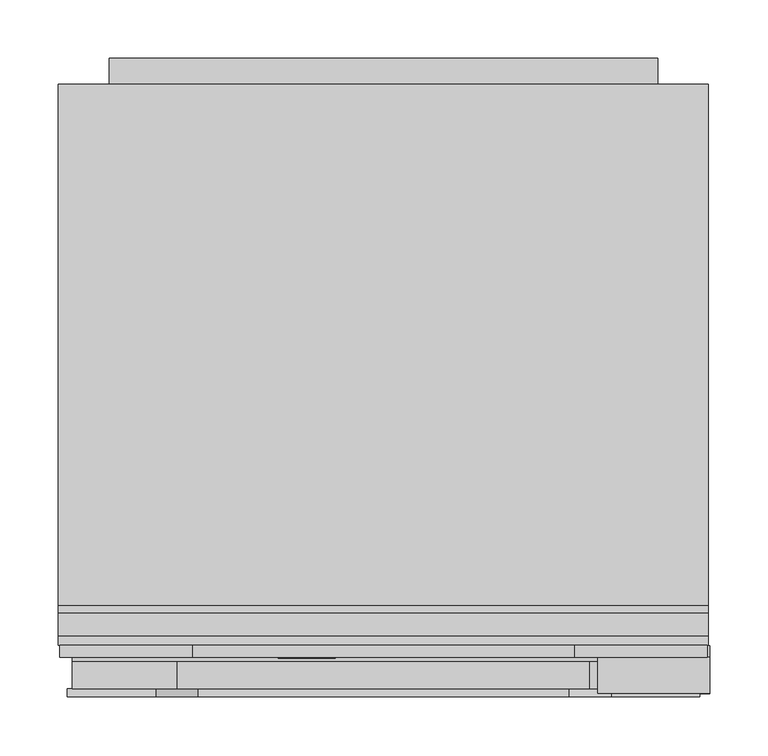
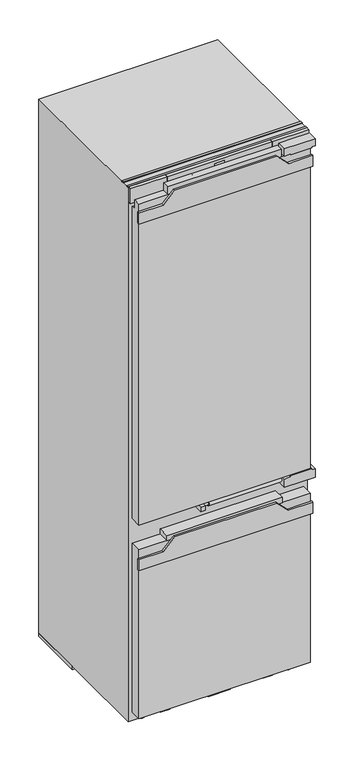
"""IFC4 building model written with IfcOpenShell, lengths in millimetres: proxy geometry, 12444400_EU1_K7731E : 36773105_EU1_12444400_K7731E."""

import ifcopenshell
import ifcopenshell.guid

model = None  # the IFC model being written
_history = None  # IfcOwnerHistory: only IFC2X3 demands one
_inside = {}  # id of a spatial element -> (the spatial element, [elements in it])
_under = {}  # id of a project, library or spatial element -> (it, [spatial elements below it])
_declared = {}  # id of a project -> (the project, [libraries it declares])
_typed = {}  # id of a type object -> (the type object, [elements of that type])
_made_of = {}  # id of a material, layer set ... -> (it, [elements and type objects made of it])


def new_model(schema):
    """Start an empty IFC model of exactly this schema.

    Asked for "IFC4X3", IfcOpenShell would pick the latest addendum, in which some entities
    have other attributes; the version numbers below select the first issue.
    IFC2X3 requires an IfcOwnerHistory on every rooted entity: one is made here for all.
    """
    global model, _history
    if schema == "IFC4X3":
        model = ifcopenshell.file(schema_version=(4, 3, 0, 0))
    else:
        model = ifcopenshell.file(schema=schema)
    _inside.clear()
    _under.clear()
    _declared.clear()
    _typed.clear()
    _made_of.clear()
    _history = None
    if model.schema == "IFC2X3":
        org = make("IfcOrganization", Name="unknown")
        user = make(
            "IfcPersonAndOrganization",
            ThePerson=make("IfcPerson", FamilyName="unknown"),
            TheOrganization=org,
        )
        app = make(
            "IfcApplication",
            ApplicationDeveloper=org,
            Version="unknown",
            ApplicationFullName="unknown",
            ApplicationIdentifier="unknown",
        )
        _history = make(
            "IfcOwnerHistory",
            OwningUser=user,
            OwningApplication=app,
            ChangeAction="ADDED",
            CreationDate=0,
        )
    return model


def make(cls, **values):
    """One entity of the class cls with the attributes given. An attribute that is None is left unset."""
    return model.create_entity(
        cls, **{name: value for name, value in values.items() if value is not None}
    )


def rooted(cls, **values):
    """An entity with a GlobalId (a new one), such as an element, a storey or a relation."""
    return make(cls, GlobalId=ifcopenshell.guid.new(), OwnerHistory=_history, **values)


def si_unit(unit_type, name, prefix=None):
    """IfcSIUnit, for example si_unit("LENGTHUNIT", "METRE", prefix="MILLI")."""
    return make("IfcSIUnit", UnitType=unit_type, Prefix=prefix, Name=name)


def assignment(units):
    """IfcUnitAssignment: the units of a project."""
    return None if units is None else make("IfcUnitAssignment", Units=units)


def point(xyz):
    """IfcCartesianPoint."""
    return None if xyz is None else make("IfcCartesianPoint", Coordinates=xyz)


def direction(xyz):
    """IfcDirection."""
    return None if xyz is None else make("IfcDirection", DirectionRatios=xyz)


def frame(location, z_axis=None, x_axis=None):
    """IfcAxis2Placement3D, a coordinate frame: its origin and axes. An axis left out is left unset."""
    return make(
        "IfcAxis2Placement3D",
        Location=point(location),
        Axis=direction(z_axis),
        RefDirection=direction(x_axis),
    )


def frame_2d(location, x_axis=None):
    """IfcAxis2Placement2D, a coordinate frame in the plane: its origin and x axis."""
    return make(
        "IfcAxis2Placement2D", Location=point(location), RefDirection=direction(x_axis)
    )


def origin():
    """The frame at (0, 0, 0) with its axes left unset."""
    return frame((0.0, 0.0, 0.0))


def origin_with_axes():
    """The frame at (0, 0, 0) with the z axis (0, 0, 1) and the x axis (1, 0, 0) written out."""
    return frame((0.0, 0.0, 0.0), z_axis=(0.0, 0.0, 1.0), x_axis=(1.0, 0.0, 0.0))


def place(relative_to, where):
    """IfcLocalPlacement: puts the frame where relative to a parent placement (None: the world)."""
    return make(
        "IfcLocalPlacement", PlacementRelTo=relative_to, RelativePlacement=where
    )


def context(
    kind, dimensions, precision=None, world=None, true_north=None, identifier=None
):
    """IfcGeometricRepresentationContext, for example the 3D "Model" context."""
    return make(
        "IfcGeometricRepresentationContext",
        ContextIdentifier=identifier,
        ContextType=kind,
        CoordinateSpaceDimension=dimensions,
        Precision=precision,
        WorldCoordinateSystem=world,
        TrueNorth=true_north,
    )


def project(units=None, contexts=None):
    """IfcProject with its units and contexts."""
    return rooted(
        "IfcProject",
        Name="project",
        RepresentationContexts=contexts,
        UnitsInContext=assignment(units),
    )


def spatial(cls, under=None, at=None, **own):
    """A site, building, storey or space (cls), placed at a placement, below another one or the project."""
    s = rooted(cls, ObjectPlacement=at, **own)
    if under is not None:
        _under.setdefault(under.id(), (under, []))[1].append(s)
    return s


def polyline(points):
    """IfcPolyline through the points."""
    return make("IfcPolyline", Points=[point(p) for p in points])


def circle_curve(where, radius):
    """IfcCircle in the frame where."""
    return make("IfcCircle", Position=where, Radius=radius)


def ellipse_curve(where, semi_axis1, semi_axis2):
    """IfcEllipse in the frame where."""
    return make(
        "IfcEllipse", Position=where, SemiAxis1=semi_axis1, SemiAxis2=semi_axis2
    )


def trimmed(basis, trim1, trim2, sense, master):
    """IfcTrimmedCurve: the piece of a basis curve between two trims."""
    return make(
        "IfcTrimmedCurve",
        BasisCurve=basis,
        Trim1=trim1,
        Trim2=trim2,
        SenseAgreement=sense,
        MasterRepresentation=master,
    )


def segment(curve, same_sense, transition):
    """IfcCompositeCurveSegment."""
    return make(
        "IfcCompositeCurveSegment",
        Transition=transition,
        SameSense=same_sense,
        ParentCurve=curve,
    )


def composite_curve(segments, self_intersect=None):
    """IfcCompositeCurve: segments joined end to end."""
    return make("IfcCompositeCurve", Segments=segments, SelfIntersect=self_intersect)


def outline(outer, holes=None, kind="AREA"):
    """IfcArbitraryClosedProfileDef: a profile drawn as a closed curve; with holes, ...WithVoids."""
    if holes is None:
        return make("IfcArbitraryClosedProfileDef", ProfileType=kind, OuterCurve=outer)
    return make(
        "IfcArbitraryProfileDefWithVoids",
        ProfileType=kind,
        OuterCurve=outer,
        InnerCurves=holes,
    )


def extrude(swept, where, along, depth):
    """IfcExtrudedAreaSolid: the profile swept, set in the frame where, extruded along a direction by depth."""
    return make(
        "IfcExtrudedAreaSolid",
        SweptArea=swept,
        Position=where,
        ExtrudedDirection=direction(along),
        Depth=depth,
    )


def faces_of(points, faces, orient=None, outer=None):
    """IfcFace entities. A face is a list of loops; a loop is a list of indices into points, from 0.

    orient and outer hold one flag for each loop. By default every Orientation is true, the
    first loop of a face is its IfcFaceOuterBound and the others are IfcFaceBound.
    """
    made = []
    for i, loops in enumerate(faces):
        bounds = []
        for j, loop in enumerate(loops):
            is_outer = j == 0 if outer is None else outer[i][j]
            bounds.append(
                make(
                    "IfcFaceOuterBound" if is_outer else "IfcFaceBound",
                    Bound=make("IfcPolyLoop", Polygon=[points[k] for k in loop]),
                    Orientation=True if orient is None else orient[i][j],
                )
            )
        made.append(make("IfcFace", Bounds=bounds))
    return made


def faceted_brep(points, faces, orient=None, outer=None, voids=None):
    """IfcFacetedBrep: a solid bounded by flat faces; with voids (closed shells), ...WithVoids."""
    shared = [point(p) for p in points]
    hull = make("IfcClosedShell", CfsFaces=faces_of(shared, faces, orient, outer))
    if voids is None:
        return make("IfcFacetedBrep", Outer=hull)
    return make(
        "IfcFacetedBrepWithVoids",
        Outer=hull,
        Voids=[
            make(cls, CfsFaces=faces_of(shared, fs, o, b)) for cls, fs, o, b in voids
        ],
    )


def shape(context_of_items, identifier, shape_type, items):
    """IfcShapeRepresentation: the items that make up one representation, for example the "Body"."""
    return make(
        "IfcShapeRepresentation",
        ContextOfItems=context_of_items,
        RepresentationIdentifier=identifier,
        RepresentationType=shape_type,
        Items=items,
    )


def source(mapping_origin, context_of_items, identifier, shape_type, items):
    """IfcRepresentationMap: a shape defined once, which mapped items show again and again."""
    return make(
        "IfcRepresentationMap",
        MappingOrigin=mapping_origin,
        MappedRepresentation=shape(context_of_items, identifier, shape_type, items),
    )


def transform(
    local_origin,
    x_axis=None,
    y_axis=None,
    z_axis=None,
    scale=None,
    scale2=None,
    scale3=None,
    uniform=True,
):
    """IfcCartesianTransformationOperator3D, or its non-uniform kind. x_axis, y_axis, z_axis: its Axis1, 2, 3."""
    if uniform:
        return make(
            "IfcCartesianTransformationOperator3D",
            Axis1=direction(x_axis),
            Axis2=direction(y_axis),
            LocalOrigin=point(local_origin),
            Scale=scale,
            Axis3=direction(z_axis),
        )
    return make(
        "IfcCartesianTransformationOperator3DnonUniform",
        Axis1=direction(x_axis),
        Axis2=direction(y_axis),
        LocalOrigin=point(local_origin),
        Scale=scale,
        Axis3=direction(z_axis),
        Scale2=scale2,
        Scale3=scale3,
    )


def mapped(mapping_source, mapping_target):
    """IfcMappedItem: shows the shape of a source again, moved by a transform."""
    return make(
        "IfcMappedItem", MappingSource=mapping_source, MappingTarget=mapping_target
    )


def made_of(thing, what):
    """Note that an element or type object is made of a material, layer set ...; save() writes the relation."""
    if what is not None:
        _made_of.setdefault(what.id(), (what, []))[1].append(thing)
    return thing


def element(
    cls,
    number,
    at=None,
    inside=None,
    cuts=None,
    type_object=None,
    material=None,
    context=None,
    identifier="Body",
    shape_type=None,
    held_by="IfcProductDefinitionShape",
    body=None,
    shapes=None,
    **own,
):
    """One element of the class cls, such as IfcWall. Its Tag is "e" and its number.

    at: its placement. inside: the storey or other place that contains it. cuts: it is an
    opening in that element (IfcRelVoidsElement). A single representation is given by context,
    identifier, shape_type and body (its items); several are given by shapes. held_by: the class
    of the entity that holds the representations. save() writes the other relations.
    """
    e = rooted(cls, Tag="e%d" % number, ObjectPlacement=at, **own)
    if body is not None:
        shapes = [shape(context, identifier, shape_type, body)]
    if shapes is not None:
        e.Representation = make(held_by, Representations=shapes)
    if inside is not None:
        _inside.setdefault(inside.id(), (inside, []))[1].append(e)
    if cuts is not None:
        rooted(
            "IfcRelVoidsElement", RelatingBuildingElement=cuts, RelatedOpeningElement=e
        )
    if type_object is not None:
        _typed.setdefault(type_object.id(), (type_object, []))[1].append(e)
    return made_of(e, material)


def aggregate(whole, parts):
    """IfcRelAggregates: a whole, such as a stair, and the parts it consists of."""
    return rooted("IfcRelAggregates", RelatingObject=whole, RelatedObjects=parts)


def save(model, path):
    """Write the relations noted so far, then the file.

    IfcRelAggregates (storeys below a building ...), IfcRelContainedInSpatialStructure (elements
    in a storey), IfcRelDefinesByType, IfcRelAssociatesMaterial and IfcRelDeclares: one each for
    every whole, place, type object, material and project.
    """
    for whole, parts in _under.values():
        aggregate(whole, parts)
    for where, things in _inside.values():
        rooted(
            "IfcRelContainedInSpatialStructure",
            RelatedElements=things,
            RelatingStructure=where,
        )
    for kind, things in _typed.values():
        rooted("IfcRelDefinesByType", RelatedObjects=things, RelatingType=kind)
    for what, things in _made_of.values():
        rooted("IfcRelAssociatesMaterial", RelatedObjects=things, RelatingMaterial=what)
    for by, libraries in _declared.values():
        rooted("IfcRelDeclares", RelatingContext=by, RelatedDefinitions=libraries)
    model.write(path)


def plane_surface(at):
    """IfcPlane: the flat surface through the origin of the frame at, square to its z axis."""
    return make("IfcPlane", Position=at)


def cylinder_surface(at, radius):
    """IfcCylindricalSurface: all points at the distance radius from the z axis of the frame at."""
    return make("IfcCylindricalSurface", Position=at, Radius=radius)


def revolved_surface(curve, axis_point, axis_direction):
    """IfcSurfaceOfRevolution: the curve turned about the line through axis_point along axis_direction."""
    return make(
        "IfcSurfaceOfRevolution",
        SweptCurve=make("IfcArbitraryOpenProfileDef", ProfileType="CURVE", Curve=curve),
        AxisPosition=make("IfcAxis1Placement", Location=point(axis_point), Axis=direction(axis_direction)),
    )


def extruded_surface(curve, direction_of_extrusion, depth):
    """IfcSurfaceOfLinearExtrusion: the curve pushed along a direction by depth."""
    return make(
        "IfcSurfaceOfLinearExtrusion",
        SweptCurve=make("IfcArbitraryOpenProfileDef", ProfileType="CURVE", Curve=curve),
        ExtrudedDirection=direction(direction_of_extrusion),
        Depth=depth,
    )


def advanced_brep(points, edges, surfaces, faces):
    """IfcAdvancedBrep: a solid bounded by faces that lie on surfaces and meet in shared edges.

    An edge is (start, end): straight between two places in points (the first is 0);
    or (start, end, curve); or (start, end, curve, False) where it runs against its curve.
    A face is (place in surfaces, loops), or (place, loops, False) where it looks against
    its surface's normal. A loop lists edges by number (the first is 1), with a minus sign
    where the edge is run from its end to its start. The first loop is the outer one.
    """
    corners = [point(p) for p in points]
    vertices = [make("IfcVertexPoint", VertexGeometry=c) for c in corners]
    made = []
    for start, end, *more in edges:
        made.append(
            make(
                "IfcEdgeCurve",
                EdgeStart=vertices[start],
                EdgeEnd=vertices[end],
                EdgeGeometry=more[0] if more else make("IfcPolyline", Points=[corners[start], corners[end]]),
                SameSense=more[1] if len(more) > 1 else True,
            )
        )
    hull = []
    for where, loops, *sense in faces:
        bounds = []
        for j, loop in enumerate(loops):
            ring = [make("IfcOrientedEdge", EdgeElement=made[abs(k) - 1], Orientation=k > 0) for k in loop]
            bounds.append(
                make(
                    "IfcFaceOuterBound" if j == 0 else "IfcFaceBound",
                    Bound=make("IfcEdgeLoop", EdgeList=ring),
                    Orientation=True,
                )
            )
        hull.append(make("IfcAdvancedFace", Bounds=bounds, FaceSurface=surfaces[where], SameSense=sense[0] if sense else True))
    return make("IfcAdvancedBrep", Outer=make("IfcClosedShell", CfsFaces=hull))


def specialty_equipment_4f9cea4c(model_context):
    return source(origin(), model_context, "Body", "SolidModel", [
        advanced_brep(
        [(-46.64, 33.0, 1742.896), (-46.64, 33.0, 1743.704), (-41.288, 33.0, 1743.704), (-50.6, 33.0, 1743.704), (-48.4, 33.0, 1741.0), (-41.424, 33.0, 1742.896), (-43.84, 33.0, 1742.896), (-45.744, 33.0, 1742.0), (-46.64, 33.0, 1744.728), (-46.64, 33.0, 1745.6), (-45.272, 33.0, 1745.6), (-45.272, 33.0, 1744.728), (-46.64, 34.0, 1742.896), (-45.744, 34.0, 1742.0), (-43.84, 34.0, 1742.896), (-41.424, 34.0, 1742.896), (-48.4, 34.0, 1741.0), (-50.6, 34.0, 1743.704), (-41.288, 34.0, 1743.704), (-46.64, 34.0, 1743.704), (-46.64, 34.0, 1744.728), (-45.272, 34.0, 1744.728), (-45.272, 34.0, 1745.6), (-46.64, 34.0, 1745.6)],
        [
            (0, 1),
            (1, 2),
            (2, 3, ellipse_curve(frame((-45.944, 33.0, 1743.704), z_axis=(0.0, -1.0, 0.0), x_axis=(-1.0, 0.0, 0.0)), 4.656, 3.848)),
            (3, 4, circle_curve(frame((-47.5039564, 33.0, 1743.976), z_axis=(0.0, -1.0, 0.0), x_axis=(0.0, 0.0, -1.0)), 3.1079688)),
            (4, 5, circle_curve(frame((-46.0372064, 33.0, 1746.088), z_axis=(0.0, -1.0, 0.0), x_axis=(0.0, 0.0, -1.0)), 5.6098607)),
            (5, 6),
            (6, 7, circle_curve(frame((-45.3529412, 33.0, 1743.64), z_axis=(0.0, 1.0, 0.0), x_axis=(0.0, 0.0, -1.0)), 1.6859795)),
            (7, 0, circle_curve(frame((-45.744, 33.0, 1742.896), z_axis=(0.0, 1.0, 0.0), x_axis=(0.0, 0.0, -1.0)), 0.896)),
            (8, 9),
            (9, 10, circle_curve(frame((-45.956, 33.0, 1745.6), z_axis=(0.0, 1.0, 0.0), x_axis=(0.0, 0.0, -1.0)), 0.684)),
            (10, 11),
            (11, 8),
            (12, 13, circle_curve(frame((-45.744, 34.0, 1742.896), z_axis=(0.0, -1.0, 0.0), x_axis=(0.0, 0.0, -1.0)), 0.896)),
            (13, 14, circle_curve(frame((-45.3529412, 34.0, 1743.64), z_axis=(0.0, -1.0, 0.0), x_axis=(0.0, 0.0, -1.0)), 1.6859795)),
            (14, 15),
            (15, 16, circle_curve(frame((-46.0372064, 34.0, 1746.088), z_axis=(0.0, 1.0, 0.0), x_axis=(0.0, 0.0, -1.0)), 5.6098607)),
            (16, 17, circle_curve(frame((-47.5039564, 34.0, 1743.976), z_axis=(0.0, 1.0, 0.0), x_axis=(0.0, 0.0, -1.0)), 3.1079688)),
            (17, 18, ellipse_curve(frame((-45.944, 34.0, 1743.704), z_axis=(0.0, 1.0, 0.0), x_axis=(-1.0, 0.0, 0.0)), 4.656, 3.848)),
            (18, 19),
            (19, 12),
            (20, 21),
            (21, 22),
            (22, 23, circle_curve(frame((-45.956, 34.0, 1745.6), z_axis=(0.0, -1.0, 0.0), x_axis=(0.0, 0.0, -1.0)), 0.684)),
            (23, 20),
            (0, 12),
            (19, 1),
            (18, 2),
            (5, 15),
            (14, 6),
            (17, 3),
            (13, 7),
            (16, 4),
            (8, 20),
            (23, 9),
            (22, 10),
            (21, 11),
        ],
        [
            plane_surface(frame((-46.64, 33.0, 1743.704), z_axis=(0.0, -1.0, 0.0), x_axis=(0.0, 0.0, 1.0))),
            plane_surface(frame((-46.64, 34.0, 1743.704), z_axis=(0.0, 1.0, 0.0), x_axis=(0.0, 0.0, -1.0))),
            plane_surface(frame((-46.64, 33.0, 1742.896), z_axis=(1.0, 0.0, 0.0), x_axis=(0.0, 1.0, 0.0))),
            plane_surface(frame((-46.64, 33.0, 1743.704), z_axis=(0.0, 0.0, -1.0), x_axis=(0.0, 1.0, 0.0))),
            plane_surface(frame((-41.424, 33.0, 1742.896), z_axis=(0.0, 0.0, 1.0), x_axis=(0.0, 1.0, 0.0))),
            extruded_surface(trimmed(ellipse_curve(frame((-45.944, 35.0, 1743.704), z_axis=(0.0, -1.0, 0.0), x_axis=(-1.0, 0.0, 0.0)), 4.656, 3.848), [point((-41.288, 35.0, 1743.704))], [point((-50.6, 35.0, 1743.704))], True, "CARTESIAN"), (0.0, -1.0, 0.0), 1.0),
            revolved_surface(polyline([(-45.3529412, 34.0, 1741.9540205), (-45.3529412, 33.0, 1741.9540205)]), (-45.3529412, 34.0, 1743.64), (0.0, 1.0, 0.0)),
            revolved_surface(polyline([(-45.744, 34.0, 1742.0), (-45.744, 33.0, 1742.0)]), (-45.744, 34.0, 1742.896), (0.0, 1.0, 0.0)),
            cylinder_surface(frame((-47.5039564, 34.0, 1743.976), z_axis=(0.0, -1.0, 0.0), x_axis=(0.0, 0.0, -1.0)), 3.1079688),
            cylinder_surface(frame((-46.0372064, 34.0, 1746.088), z_axis=(0.0, -1.0, 0.0), x_axis=(0.0, 0.0, -1.0)), 5.6098607),
            plane_surface(frame((-46.64, 33.0, 1744.728), z_axis=(1.0, 0.0, 0.0), x_axis=(0.0, 1.0, 0.0))),
            revolved_surface(polyline([(-45.956, 34.0, 1744.916), (-45.956, 33.0, 1744.916)]), (-45.956, 34.0, 1745.6), (0.0, 1.0, 0.0)),
            plane_surface(frame((-45.272, 33.0, 1745.6), z_axis=(-1.0, 0.0, 0.0), x_axis=(0.0, 1.0, 0.0))),
            plane_surface(frame((-45.272, 33.0, 1744.728), z_axis=(0.0, 0.0, 1.0), x_axis=(0.0, 1.0, 0.0))),
        ],
        [
            (0, [[1, 2, 3, 4, 5, 6, 7, 8], [9, 10, 11, 12]]),
            (1, [[13, 14, 15, 16, 17, 18, 19, 20], [21, 22, 23, 24]]),
            (2, [[-1, 25, -20, 26]]),
            (3, [[-2, -26, -19, 27]]),
            (4, [[-6, 28, -15, 29]]),
            (5, [[-3, -27, -18, 30]]),
            (6, [[-7, -29, -14, 31]]),
            (7, [[-8, -31, -13, -25]]),
            (8, [[-4, -30, -17, 32]]),
            (9, [[-5, -32, -16, -28]]),
            (10, [[-9, 33, -24, 34]]),
            (11, [[-10, -34, -23, 35]]),
            (12, [[-11, -35, -22, 36]]),
            (13, [[-12, -36, -21, -33]]),
        ],
    ),
        advanced_brep(
        [(-63.336, 33.0, 1742.896), (-63.336, 33.0, 1743.704), (-57.984, 33.0, 1743.704), (-67.296, 33.0, 1743.704), (-65.096, 33.0, 1741.0), (-58.12, 33.0, 1742.896), (-60.536, 33.0, 1742.896), (-62.44, 33.0, 1742.0), (-63.336, 33.0, 1744.728), (-63.336, 33.0, 1745.6), (-61.968, 33.0, 1745.6), (-61.968, 33.0, 1744.728), (-63.336, 34.0, 1742.896), (-62.44, 34.0, 1742.0), (-60.536, 34.0, 1742.896), (-58.12, 34.0, 1742.896), (-65.096, 34.0, 1741.0), (-67.296, 34.0, 1743.704), (-57.984, 34.0, 1743.704), (-63.336, 34.0, 1743.704), (-63.336, 34.0, 1744.728), (-61.968, 34.0, 1744.728), (-61.968, 34.0, 1745.6), (-63.336, 34.0, 1745.6)],
        [
            (0, 1),
            (1, 2),
            (2, 3, ellipse_curve(frame((-62.64, 33.0, 1743.704), z_axis=(0.0, -1.0, 0.0), x_axis=(-1.0, 0.0, 0.0)), 4.656, 3.848)),
            (3, 4, circle_curve(frame((-64.1999564, 33.0, 1743.976), z_axis=(0.0, -1.0, 0.0), x_axis=(0.0, 0.0, -1.0)), 3.1079688)),
            (4, 5, circle_curve(frame((-62.7332064, 33.0, 1746.088), z_axis=(0.0, -1.0, 0.0), x_axis=(0.0, 0.0, -1.0)), 5.6098607)),
            (5, 6),
            (6, 7, circle_curve(frame((-62.0489412, 33.0, 1743.64), z_axis=(0.0, 1.0, 0.0), x_axis=(0.0, 0.0, -1.0)), 1.6859795)),
            (7, 0, circle_curve(frame((-62.44, 33.0, 1742.896), z_axis=(0.0, 1.0, 0.0), x_axis=(0.0, 0.0, -1.0)), 0.896)),
            (8, 9),
            (9, 10, circle_curve(frame((-62.652, 33.0, 1745.6), z_axis=(0.0, 1.0, 0.0), x_axis=(0.0, 0.0, -1.0)), 0.684)),
            (10, 11),
            (11, 8),
            (12, 13, circle_curve(frame((-62.44, 34.0, 1742.896), z_axis=(0.0, -1.0, 0.0), x_axis=(0.0, 0.0, -1.0)), 0.896)),
            (13, 14, circle_curve(frame((-62.0489412, 34.0, 1743.64), z_axis=(0.0, -1.0, 0.0), x_axis=(0.0, 0.0, -1.0)), 1.6859795)),
            (14, 15),
            (15, 16, circle_curve(frame((-62.7332064, 34.0, 1746.088), z_axis=(0.0, 1.0, 0.0), x_axis=(0.0, 0.0, -1.0)), 5.6098607)),
            (16, 17, circle_curve(frame((-64.1999564, 34.0, 1743.976), z_axis=(0.0, 1.0, 0.0), x_axis=(0.0, 0.0, -1.0)), 3.1079688)),
            (17, 18, ellipse_curve(frame((-62.64, 34.0, 1743.704), z_axis=(0.0, 1.0, 0.0), x_axis=(-1.0, 0.0, 0.0)), 4.656, 3.848)),
            (18, 19),
            (19, 12),
            (20, 21),
            (21, 22),
            (22, 23, circle_curve(frame((-62.652, 34.0, 1745.6), z_axis=(0.0, -1.0, 0.0), x_axis=(0.0, 0.0, -1.0)), 0.684)),
            (23, 20),
            (0, 12),
            (19, 1),
            (18, 2),
            (5, 15),
            (14, 6),
            (17, 3),
            (13, 7),
            (16, 4),
            (8, 20),
            (23, 9),
            (22, 10),
            (21, 11),
        ],
        [
            plane_surface(frame((-63.336, 33.0, 1743.704), z_axis=(0.0, -1.0, 0.0), x_axis=(0.0, 0.0, 1.0))),
            plane_surface(frame((-63.336, 34.0, 1743.704), z_axis=(0.0, 1.0, 0.0), x_axis=(0.0, 0.0, -1.0))),
            plane_surface(frame((-63.336, 33.0, 1742.896), z_axis=(1.0, 0.0, 0.0), x_axis=(0.0, 1.0, 0.0))),
            plane_surface(frame((-63.336, 33.0, 1743.704), z_axis=(0.0, 0.0, -1.0), x_axis=(0.0, 1.0, 0.0))),
            plane_surface(frame((-58.12, 33.0, 1742.896), z_axis=(0.0, 0.0, 1.0), x_axis=(0.0, 1.0, 0.0))),
            extruded_surface(trimmed(ellipse_curve(frame((-62.64, 35.0, 1743.704), z_axis=(0.0, -1.0, 0.0), x_axis=(-1.0, 0.0, 0.0)), 4.656, 3.848), [point((-57.984, 35.0, 1743.704))], [point((-67.296, 35.0, 1743.704))], True, "CARTESIAN"), (0.0, -1.0, 0.0), 1.0),
            revolved_surface(polyline([(-62.0489412, 34.0, 1741.9540205), (-62.0489412, 33.0, 1741.9540205)]), (-62.0489412, 34.0, 1743.64), (0.0, 1.0, 0.0)),
            revolved_surface(polyline([(-62.44, 34.0, 1742.0), (-62.44, 33.0, 1742.0)]), (-62.44, 34.0, 1742.896), (0.0, 1.0, 0.0)),
            cylinder_surface(frame((-64.1999564, 34.0, 1743.976), z_axis=(0.0, -1.0, 0.0), x_axis=(0.0, 0.0, -1.0)), 3.1079688),
            cylinder_surface(frame((-62.7332064, 34.0, 1746.088), z_axis=(0.0, -1.0, 0.0), x_axis=(0.0, 0.0, -1.0)), 5.6098607),
            plane_surface(frame((-63.336, 33.0, 1744.728), z_axis=(1.0, 0.0, 0.0), x_axis=(0.0, 1.0, 0.0))),
            revolved_surface(polyline([(-62.652, 34.0, 1744.916), (-62.652, 33.0, 1744.916)]), (-62.652, 34.0, 1745.6), (0.0, 1.0, 0.0)),
            plane_surface(frame((-61.968, 33.0, 1745.6), z_axis=(-1.0, 0.0, 0.0), x_axis=(0.0, 1.0, 0.0))),
            plane_surface(frame((-61.968, 33.0, 1744.728), z_axis=(0.0, 0.0, 1.0), x_axis=(0.0, 1.0, 0.0))),
        ],
        [
            (0, [[1, 2, 3, 4, 5, 6, 7, 8], [9, 10, 11, 12]]),
            (1, [[13, 14, 15, 16, 17, 18, 19, 20], [21, 22, 23, 24]]),
            (2, [[-1, 25, -20, 26]]),
            (3, [[-2, -26, -19, 27]]),
            (4, [[-6, 28, -15, 29]]),
            (5, [[-3, -27, -18, 30]]),
            (6, [[-7, -29, -14, 31]]),
            (7, [[-8, -31, -13, -25]]),
            (8, [[-4, -30, -17, 32]]),
            (9, [[-5, -32, -16, -28]]),
            (10, [[-9, 33, -24, 34]]),
            (11, [[-10, -34, -23, 35]]),
            (12, [[-11, -35, -22, 36]]),
            (13, [[-12, -36, -21, -33]]),
        ],
    ),
        extrude(outline(polyline([(1748.528, -72.08), (1747.232, -71.472), (1748.496, -68.76), (1749.792, -69.36), (1748.528, -72.08)])), frame((0.0, 33.0, 0.0), z_axis=(0.0, 1.0, 0.0), x_axis=(0.0, 0.0, 1.0)), (0.0, 0.0, 1.0), 1.0),
        extrude(outline(polyline([(1747.056, -74.056), (1745.624, -74.056), (1745.624, -73.104), (1742.344, -73.104), (1742.344, -74.056), (1741.0, -74.056), (1741.0, -67.744), (1742.344, -67.744), (1742.344, -68.672), (1747.056, -68.672), (1747.056, -74.056)])), frame((0.0, 33.0, 0.0), z_axis=(0.0, 1.0, 0.0), x_axis=(0.0, 0.0, 1.0)), (0.0, 0.0, 1.0), 1.0),
        extrude(outline(polyline([(1747.696, -57.536), (1747.696, -56.576), (1742.344, -56.576), (1742.344, -57.536), (1741.0, -57.536), (1741.0, -51.048), (1742.344, -51.048), (1742.344, -52.032), (1749.0, -52.032), (1749.0, -57.536), (1747.696, -57.536)])), frame((0.0, 33.0, 0.0), z_axis=(0.0, 1.0, 0.0), x_axis=(0.0, 0.0, 1.0)), (0.0, 0.0, 1.0), 1.0),
        extrude(outline(polyline([(1747.696, -90.0), (1747.696, -89.032), (1742.344, -89.032), (1742.344, -90.0), (1741.0, -90.0), (1741.0, -86.48), (1742.344, -86.48), (1742.344, -87.44), (1745.7471247, -87.44), (1741.0, -83.864), (1745.8152223, -80.272), (1742.344, -80.272), (1742.344, -81.256), (1741.0, -81.256), (1741.0, -74.872), (1742.344, -74.872), (1742.344, -75.888), (1747.696, -75.888), (1747.696, -74.872), (1749.0, -74.872), (1749.0, -79.744), (1746.0, -82.08), (1749.0, -84.424), (1749.0, -90.0), (1747.696, -90.0)])), frame((0.0, 33.0, 0.0), z_axis=(0.0, 1.0, 0.0), x_axis=(0.0, 0.0, 1.0)), (0.0, 0.0, 1.0), 1.0),
        faceted_brep([(163.5, 34.0, 1770.0), (-163.5, 34.0, 1770.0), (-163.5, 34.0, 1721.0), (163.5, 34.0, 1721.0), (15.0, 34.0, 1761.0), (15.0, 34.0, 1731.0), (-15.0, 34.0, 1731.0), (-15.0, 34.0, 1761.0), (163.5, 44.0, 1770.0), (163.5, 44.0, 1721.0), (-163.5, 44.0, 1721.0), (-163.5, 44.0, 1770.0), (15.0, 35.0, 1761.0), (-15.0, 35.0, 1761.0), (-15.0, 35.0, 1731.0), (15.0, 35.0, 1731.0)], [[[0, 1, 2, 3], [4, 5, 6, 7]], [[8, 9, 10, 11]], [[0, 3, 9, 8]], [[3, 2, 10, 9]], [[2, 1, 11, 10]], [[1, 0, 8, 11]], [[12, 13, 14, 15]], [[12, 15, 5, 4]], [[15, 14, 6, 5]], [[14, 13, 7, 6]], [[13, 12, 4, 7]]]),
        extrude(outline(polyline([(163.5, 44.0), (277.5, 44.0), (277.5, 34.0), (163.5, 34.0), (163.5, 44.0)])), frame((0.0, 0.0, 1721.0), z_axis=(0.0, 0.0, 1.0), x_axis=(1.0, 0.0, 0.0)), (0.0, 0.0, 1.0), 49.0),
        extrude(outline(polyline([(-277.5, 44.0), (-163.5, 44.0), (-163.5, 34.0), (-277.5, 34.0), (-277.5, 44.0)])), frame((0.0, 0.0, 1721.0), z_axis=(0.0, 0.0, 1.0), x_axis=(1.0, 0.0, 0.0)), (0.0, 0.0, 1.0), 49.0),
        extrude(outline(polyline([(-15.0, 35.0), (15.0, 35.0), (15.0, 34.0), (-15.0, 34.0), (-15.0, 35.0)])), frame((0.0, 0.0, 1731.0), z_axis=(0.0, 0.0, 1.0), x_axis=(1.0, 0.0, 0.0)), (0.0, 0.0, 1.0), 30.0),
        extrude(outline(polyline([(1647.0, -235.0), (27.0, -235.0), (27.0, 235.0), (130.0, 235.0), (130.0, 170.0), (160.0, 170.0), (160.0, 235.0), (1647.0, 235.0), (1647.0, -235.0)])), frame((0.0, 525.0, 0.0), z_axis=(0.0, 1.0, 0.0), x_axis=(0.0, 0.0, 1.0)), (0.0, 0.0, 1.0), 22.0),
        extrude(outline(polyline([(-144.929185, 52.0), (-174.0, 52.0), (-194.4885559, 345.0), (-165.4177409, 345.0), (-144.929185, 52.0)])), origin_with_axes(), (0.0, 0.0, 1.0), 10.0),
        extrude(outline(polyline([(144.929185, 52.0), (165.4177409, 345.0), (194.4885559, 345.0), (174.0, 52.0), (144.929185, 52.0)])), origin_with_axes(), (0.0, 0.0, 1.0), 10.0),
        extrude(outline(polyline([(538.651012, 148.8988246), (538.651012, 150.150839), (545.8850603, 150.150839), (545.8850603, 140.1043073), (538.5027529, 140.1043073), (538.5027529, 141.3585545), (544.6152499, 141.3585545), (544.6152499, 144.6556887), (538.967462, 144.6556887), (538.967462, 145.9162842), (544.6270824, 145.9162842), (544.6270824, 148.8988246), (538.651012, 148.8988246)])), frame((193.5, 0.0, 0.0), z_axis=(1.0, 0.0, 0.0), x_axis=(0.0, 1.0, 0.0)), (0.0, 0.0, 1.0), 1.0),
        extrude(outline(polyline([(536.624075, 150.150839), (536.624075, 140.1043073), (530.3334819, 140.1043073), (530.3334819, 141.3573374), (535.3334819, 141.3573374), (535.3334819, 150.150839), (536.624075, 150.150839)])), frame((193.5, 0.0, 0.0), z_axis=(1.0, 0.0, 0.0), x_axis=(0.0, 1.0, 0.0)), (0.0, 0.0, 1.0), 1.0),
        advanced_brep(
        [(232.0, 525.0, 145.0), (217.0, 525.0, 145.0), (232.0, 546.5, 145.0), (217.0, 531.5, 145.0), (194.5, 546.5, 145.0), (194.5, 531.5, 145.0)],
        [
            (0, 1, circle_curve(frame((224.5, 525.0, 145.0), z_axis=(0.0, -1.0, 0.0), x_axis=(-1.0, 0.0, 0.0)), 7.5)),
            (1, 0, circle_curve(frame((224.5, 525.0, 145.0), z_axis=(0.0, -1.0, 0.0), x_axis=(-1.0, 0.0, 0.0)), 7.5)),
            (0, 2),
            (2, 3, ellipse_curve(frame((224.5, 539.0, 145.0), z_axis=(0.7071067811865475, -0.7071067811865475, 0.0), x_axis=(-0.7071067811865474, -0.7071067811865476, 0.0)), 10.6066017, 7.5)),
            (3, 1),
            (3, 2, ellipse_curve(frame((224.5, 539.0, 145.0), z_axis=(0.7071067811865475, -0.7071067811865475, 0.0), x_axis=(-0.7071067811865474, -0.7071067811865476, 0.0)), 10.6066017, 7.5)),
            (4, 5, circle_curve(frame((194.5, 539.0, 145.0), z_axis=(-1.0, 0.0, 0.0), x_axis=(0.0, -1.0, 0.0)), 7.5)),
            (5, 4, circle_curve(frame((194.5, 539.0, 145.0), z_axis=(-1.0, 0.0, 0.0), x_axis=(0.0, -1.0, 0.0)), 7.5)),
            (2, 4),
            (5, 3),
        ],
        [
            plane_surface(frame((224.5, 525.0, 145.0), z_axis=(0.0, -1.0, 0.0), x_axis=(0.0, 0.0, 1.0))),
            cylinder_surface(frame((224.5, 525.0, 145.0), z_axis=(0.0, -1.0, 0.0), x_axis=(-1.0, 0.0, 0.0)), 7.5),
            plane_surface(frame((194.5, 539.0, 145.0), z_axis=(-1.0, 0.0, 0.0), x_axis=(0.0, 0.0, 1.0))),
            cylinder_surface(frame((224.5, 539.0, 145.0), z_axis=(1.0, 0.0, 0.0), x_axis=(0.0, -1.0, 0.0)), 7.5),
        ],
        [
            (0, [[1, 2]]),
            (1, [[-1, 3, 4, 5]]),
            (1, [[-2, -5, 6, -3]]),
            (2, [[7, 8]]),
            (3, [[-4, 9, -8, 10]]),
            (3, [[-6, -10, -7, -9]]),
        ],
    ),
        extrude(outline(polyline([(-34.0, 44.0), (34.0, 44.0), (34.0, 35.0), (-34.0, 35.0), (-34.0, 44.0)])), frame((0.0, 0.0, 13.0), z_axis=(0.0, 0.0, 1.0), x_axis=(1.0, 0.0, 0.0)), (0.0, 0.0, 1.0), 19.0),
        extrude(outline(polyline([(-233.5, 348.0), (-233.5, 487.0), (233.5, 487.0), (233.5, 348.0), (-233.5, 348.0)])), frame((0.0, 0.0, 50.0), z_axis=(0.0, 0.0, 1.0), x_axis=(1.0, 0.0, 0.0)), (0.0, 0.0, 1.0), 200.0),
        extrude(outline(polyline([(-233.5, 44.0), (-233.5, 487.0), (233.5, 487.0), (233.5, 44.0), (-233.5, 44.0)])), frame((0.0, 0.0, 895.0), z_axis=(0.0, 0.0, 1.0), x_axis=(1.0, 0.0, 0.0)), (0.0, 0.0, 1.0), 3.0),
        extrude(outline(polyline([(-233.5, 179.0), (-233.5, 487.0), (233.5, 487.0), (233.5, 179.0), (-233.5, 179.0)])), frame((0.0, 0.0, 1471.0), z_axis=(0.0, 0.0, 1.0), x_axis=(1.0, 0.0, 0.0)), (0.0, 0.0, 1.0), 221.0),
        extrude(outline(composite_curve([segment(trimmed(circle_curve(frame_2d((228.0, 64.0)), 11.0), [point((239.0, 64.0))], [point((217.0, 64.0))], False, "CARTESIAN"), True, "CONTINUOUS"), segment(trimmed(circle_curve(frame_2d((228.0, 64.0)), 11.0), [point((217.0, 64.0))], [point((239.0, 64.0))], False, "CARTESIAN"), True, "CONTINUOUS")], self_intersect=False)), origin_with_axes(), (0.0, 0.0, 1.0), 10.0),
        extrude(outline(composite_curve([segment(trimmed(circle_curve(frame_2d((-228.0, 64.0)), 11.0), [point((-217.0, 64.0))], [point((-239.0, 64.0))], False, "CARTESIAN"), True, "CONTINUOUS"), segment(trimmed(circle_curve(frame_2d((-228.0, 64.0)), 11.0), [point((-239.0, 64.0))], [point((-217.0, 64.0))], False, "CARTESIAN"), True, "CONTINUOUS")], self_intersect=False)), origin_with_axes(), (0.0, 0.0, 1.0), 10.0),
        extrude(outline(polyline([(278.5, 525.0), (278.5, 345.0), (-278.5, 345.0), (-278.5, 525.0), (278.5, 525.0)])), origin_with_axes(), (0.0, 0.0, 1.0), 10.0),
        extrude(outline(polyline([(278.5, 52.0), (278.5, 44.0), (-278.5, 44.0), (-278.5, 52.0), (278.5, 52.0)])), frame((0.0, 0.0, 1767.0), z_axis=(0.0, 0.0, 1.0), x_axis=(1.0, 0.0, 0.0)), (0.0, 0.0, 1.0), 3.0),
        extrude(outline(polyline([(278.5, 78.0), (278.5, 72.0), (-278.5, 72.0), (-278.5, 78.0), (278.5, 78.0)])), frame((0.0, 0.0, 1767.0), z_axis=(0.0, 0.0, 1.0), x_axis=(1.0, 0.0, 0.0)), (0.0, 0.0, 1.0), 3.0),
        faceted_brep([(278.5, 525.0, 1767.0), (-278.5, 525.0, 1767.0), (-278.5, 44.0, 1767.0), (278.5, 44.0, 1767.0), (278.5, 525.0, 10.0), (278.5, 44.0, 10.0), (-278.5, 44.0, 10.0), (-278.5, 525.0, 10.0), (233.5, 44.0, 1692.0), (233.5, 44.0, 701.0), (-233.5, 44.0, 701.0), (-233.5, 44.0, 1692.0), (233.5, 44.0, 570.0), (233.5, 44.0, 50.0), (-233.5, 44.0, 50.0), (-233.5, 44.0, 570.0), (233.5, 487.0, 1692.0), (-233.5, 487.0, 1692.0), (-233.5, 487.0, 701.0), (233.5, 487.0, 701.0), (233.5, 487.0, 570.0), (233.5, 487.0, 50.0), (-233.5, 487.0, 570.0), (-233.5, 487.0, 50.0)], [[[0, 1, 2, 3]], [[4, 5, 6, 7]], [[1, 0, 4, 7]], [[2, 1, 7, 6]], [[3, 2, 6, 5], [8, 9, 10, 11], [12, 13, 14, 15]], [[0, 3, 5, 4]], [[16, 17, 18, 19]], [[16, 19, 9, 8]], [[19, 18, 10, 9]], [[18, 17, 11, 10]], [[17, 16, 8, 11]], [[20, 21, 13, 12]], [[22, 15, 14, 23]], [[21, 20, 22, 23]], [[13, 21, 23, 14]], [[20, 12, 15, 22]]]),
        extrude(outline(composite_curve([segment(trimmed(circle_curve(frame_2d((-65.5, 25.0)), 6.5), [point((-59.0, 25.0))], [point((-72.0, 25.0))], False, "CARTESIAN"), True, "CONTINUOUS"), segment(trimmed(circle_curve(frame_2d((-65.5, 25.0)), 6.5), [point((-72.0, 25.0))], [point((-59.0, 25.0))], False, "CARTESIAN"), True, "CONTINUOUS")], self_intersect=False)), frame((0.0, 0.0, 667.0), z_axis=(0.0, 0.0, 1.0), x_axis=(1.0, 0.0, 0.0)), (0.0, 0.0, 1.0), 9.0),
        extrude(outline(polyline([(-74.0, 42.0), (-59.0, 42.0), (-59.0, 8.0), (-74.0, 8.0), (-74.0, 42.0)])), frame((0.0, 0.0, 652.0), z_axis=(0.0, 0.0, 1.0), x_axis=(1.0, 0.0, 0.0)), (0.0, 0.0, 1.0), 15.0),
        extrude(outline(polyline([(531.008472, -271.0), (531.008472, 271.0), (567.008472, 271.0), (567.008472, 195.0), (603.008472, 159.0), (603.008472, -159.0), (567.008472, -195.0), (567.008472, -271.0), (531.008472, -271.0)])), frame((0.0, 1.0, 0.0), z_axis=(0.0, 1.0, 0.0), x_axis=(0.0, 0.0, 1.0)), (0.0, 0.0, 1.0), 6.0),
        extrude(outline(polyline([(1672.0, 271.0), (1708.0, 271.0), (1708.0, 195.0), (1744.0, 159.0), (1744.0, -159.0), (1708.0, -195.0), (1708.0, -271.0), (1672.0, -271.0), (1672.0, 271.0)])), frame((0.0, 0.0, 0.0), z_axis=(0.0, 1.0, 0.0), x_axis=(0.0, 0.0, 1.0)), (0.0, 0.0, 1.0), 7.0),
        extrude(outline(polyline([(1732.0, 203.5), (1732.0, 269.5), (1735.0, 269.5), (1735.0, 279.5), (1759.0, 279.5), (1759.0, 183.5), (1735.0, 183.5), (1735.0, 203.5), (1732.0, 203.5)])), frame((0.0, 3.0, 0.0), z_axis=(0.0, 1.0, 0.0), x_axis=(0.0, 0.0, 1.0)), (0.0, 0.0, 1.0), 31.0),
        extrude(outline(polyline([(7.0, 676.0), (7.0, 1732.0), (30.0, 1732.0), (30.0, 1702.0), (44.0, 1702.0), (44.0, 676.0), (7.0, 676.0)])), frame((-266.5, 0.0, 0.0), z_axis=(1.0, 0.0, 0.0), x_axis=(0.0, 1.0, 0.0)), (0.0, 0.0, 1.0), 533.0),
        extrude(outline(polyline([(176.5, 7.0), (-176.5, 7.0), (-176.5, 30.0), (176.5, 30.0), (176.5, 7.0)])), frame((0.0, 0.0, 1732.0), z_axis=(0.0, 0.0, 1.0), x_axis=(1.0, 0.0, 0.0)), (0.0, 0.0, 1.0), 25.0),
        extrude(outline(polyline([(676.0, 203.5), (672.0, 203.5), (672.0, 183.5), (645.0, 183.5), (645.0, 279.5), (672.0, 279.5), (672.0, 269.5), (676.0, 269.5), (676.0, 203.5)])), frame((0.0, 3.0, 0.0), z_axis=(0.0, 1.0, 0.0), x_axis=(0.0, 0.0, 1.0)), (0.0, 0.0, 1.0), 41.0),
        extrude(outline(polyline([(-179.5, 44.0), (179.5, 44.0), (179.5, 7.0), (-179.5, 7.0), (-179.5, 44.0)])), frame((0.0, 0.0, 594.0), z_axis=(0.0, 0.0, 1.0), x_axis=(1.0, 0.0, 0.0)), (0.0, 0.0, 1.0), 17.0),
        extrude(outline(polyline([(-266.5, 44.0), (266.5, 44.0), (266.5, 7.0), (-266.5, 7.0), (-266.5, 44.0)])), frame((0.0, 0.0, 38.0), z_axis=(0.0, 0.0, 1.0), x_axis=(1.0, 0.0, 0.0)), (0.0, 0.0, 1.0), 556.0),
        extrude(outline(composite_curve([segment(trimmed(circle_curve(frame_2d((25.0, 661.0)), 9.0), [point((25.0, 670.0))], [point((25.0, 652.0))], False, "CARTESIAN"), True, "CONTINUOUS"), segment(trimmed(circle_curve(frame_2d((25.0, 661.0)), 9.0), [point((25.0, 652.0))], [point((25.0, 670.0))], False, "CARTESIAN"), True, "CONTINUOUS")], self_intersect=False)), frame((-43.0, 0.0, 0.0), z_axis=(1.0, 0.0, 0.0), x_axis=(0.0, 1.0, 0.0)), (0.0, 0.0, 1.0), 226.5),
        extrude(outline(composite_curve([segment(trimmed(circle_curve(frame_2d((25.0, 661.0)), 6.0), [point((25.0, 667.0))], [point((25.0, 655.0))], False, "CARTESIAN"), True, "CONTINUOUS"), segment(trimmed(circle_curve(frame_2d((25.0, 661.0)), 6.0), [point((25.0, 655.0))], [point((25.0, 667.0))], False, "CARTESIAN"), True, "CONTINUOUS")], self_intersect=False)), frame((-59.0, 0.0, 0.0), z_axis=(1.0, 0.0, 0.0), x_axis=(0.0, 1.0, 0.0)), (0.0, 0.0, 1.0), 16.0),
    ])


if __name__ == "__main__":
    model = new_model("IFC4")
    model_context = context("Model", 3, world=origin())
    ifc_project = project(units=[si_unit("LENGTHUNIT", "METRE", prefix="MILLI")], contexts=[model_context])
    site = spatial("IfcSite", under=ifc_project)
    building = spatial("IfcBuilding", under=site)
    placement = place(None, origin())
    specialty_equipment_shape = specialty_equipment_4f9cea4c(model_context)
    element("IfcBuildingElementProxy", 1, Name="12444400_EU1_K7731E : 36773105_EU1_12444400_K7731E", ObjectType="12444400_EU1_K7731E : 36773105_EU1_12444400_K7731E", at=placement, inside=building, context=model_context, shape_type="MappedRepresentation", body=[
        mapped(specialty_equipment_shape, transform((0.0, 0.0, 0.0), x_axis=(1.0, 0.0, 0.0), y_axis=(0.0, 1.0, 0.0), z_axis=(0.0, 0.0, 1.0))),
    ])
    save(model, "model.ifc")
